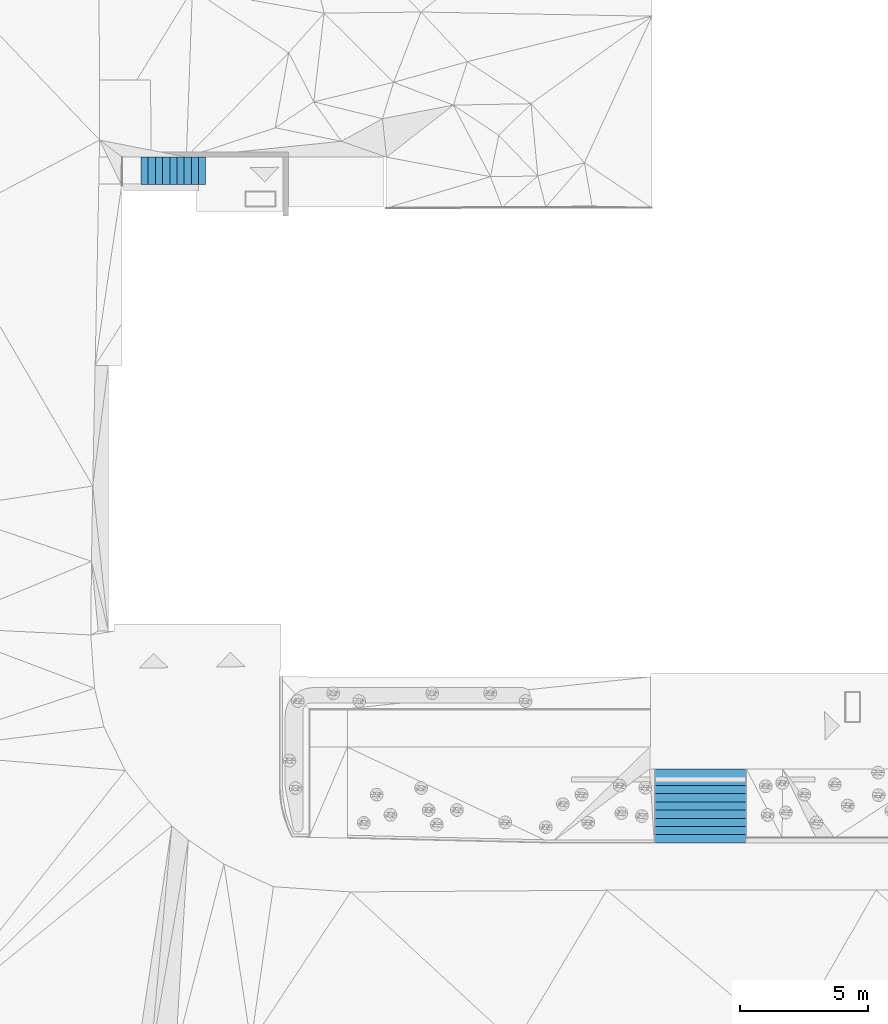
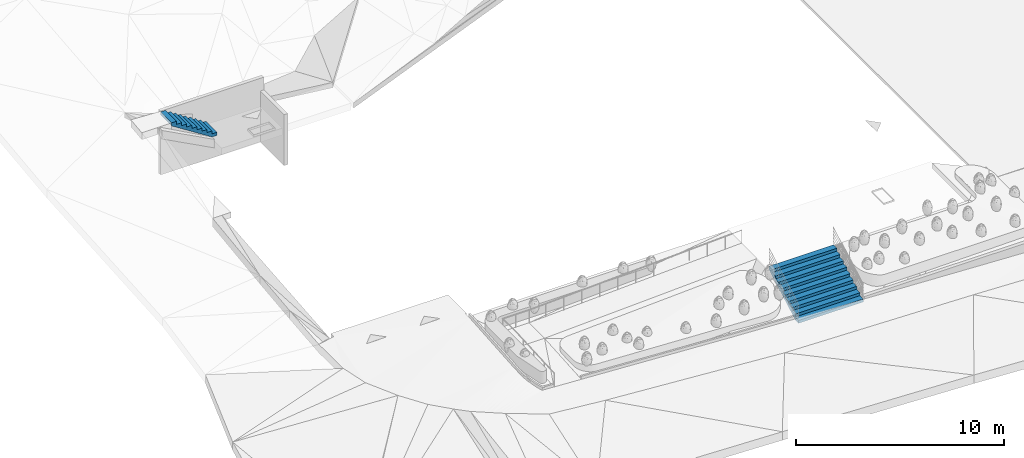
# One storey, part 16 of 23: 2 stair flights, 2 elements without a shape of their own.
"""IFC2X3 building model written with IfcOpenShell, lengths in metres."""

from ifc_helpers import new_model, entity, si_unit, converted_unit, direction, frame, origin, place, context, subcontext, project, spatial, faceted_brep, material, material_list, type_object, element, aggregate, save


model = new_model("IFC2X3")

# Units and contexts
model_context = context("Model", 3, precision=1e-05, world=origin(), true_north=direction((0.7716245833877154, 0.6360782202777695)))
body_context = subcontext(model_context, "Body", "Model", "MODEL_VIEW")
ifc_project = project(units=[si_unit("LENGTHUNIT", "METRE"), converted_unit("PLANEANGLEUNIT", "DEGREE", entity("IfcPlaneAngleMeasure", 0.017453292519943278), si_unit("PLANEANGLEUNIT", "RADIAN"), dimensions=[0, 0, 0, 0, 0, 0, 0]), si_unit("AREAUNIT", "SQUARE_METRE")], contexts=[model_context])

# Site, building, storey
site_placement = place(None, origin())
site = spatial("IfcSite", under=ifc_project, at=site_placement, Name="Default", CompositionType="ELEMENT")
building_placement = place(site_placement, origin())
building = spatial("IfcBuilding", under=site, at=building_placement, Name="<Building Name>", CompositionType="ELEMENT")
storey_placement = place(building_placement, origin())
storey = spatial("IfcBuildingStorey", under=building, at=storey_placement, Name="00 - HAV", CompositionType="ELEMENT", Elevation=0.0)

# Stair, stair flight
type_product_1 = type_object("IfcTypeProduct", Name="Cast-In-Place Stair:Utetrapp - betong")
stair_1_placement = place(storey_placement, origin())
stair_1 = element("IfcStair", 1, at=stair_1_placement, inside=storey, type_object=type_product_1, Name="Cast-In-Place Stair:Stair", ObjectType="Cast-In-Place Stair:Utetrapp - betong", ShapeType="STRAIGHT_RUN_STAIR")
ifc_material_1 = material(Name="A_Finish_Metal_Steel_Brushed")
ifc_material_2 = material(Name="Focus - Betong")
ifc_material_list = material_list([ifc_material_1, ifc_material_2])
stair_flight_type_1 = type_object("IfcStairFlightType", Name="Monolithic Run:Monolittisk", PredefinedType="STRAIGHT")
stair_flight_1_placement = place(stair_1_placement, frame((244.4031523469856, 46.70527971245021, 0.0)))
stair_flight_1 = element("IfcStairFlight", 2, at=stair_flight_1_placement, type_object=stair_flight_type_1, material=ifc_material_list, Name="Cast-In-Place Stair:Stair:1703353 Run 1", ObjectType="Monolithic Run:Monolittisk", NumberOfRiser=10, NumberOfTreads=9, RiserHeight=0.5882352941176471, TreadLength=1.0498687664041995, context=body_context, shape_type="Brep", body=[
    faceted_brep([(3.6000000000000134, 0.02100000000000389, 31.66991911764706), (3.6000000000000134, 0.020999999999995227, 31.670919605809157), (3.6000000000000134, 0.0, 31.67026335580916), (3.6000000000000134, 0.0, 31.665294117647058), (3.6000000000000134, 0.0009999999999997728, 31.665294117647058), (3.6000000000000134, 0.0009999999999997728, 31.66929411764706), (0.0, 0.02100000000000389, 31.66991911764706), (0.0, 0.0009999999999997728, 31.66929411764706), (0.0, 0.0009999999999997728, 31.665294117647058), (0.0, 0.0, 31.66529411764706), (0.0, 0.0, 31.67026335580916), (0.0, 0.02100000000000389, 31.670919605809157)], [[[0, 1, 2, 3, 4, 5]], [[6, 7, 8, 9, 10, 11]], [[1, 0, 6, 11]], [[2, 1, 11, 10]], [[3, 2, 10, 9]], [[4, 3, 9, 8]], [[5, 4, 8, 7]], [[0, 5, 7, 6]]]),
    faceted_brep([(3.6000000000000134, 0.32099999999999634, 31.66929411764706), (3.6000000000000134, 0.32099999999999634, 31.67929411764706), (3.6000000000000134, 0.0009999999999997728, 31.66929411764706), (0.0, 0.32099999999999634, 31.66929411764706), (0.0, 0.0009999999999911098, 31.669294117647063), (0.0, 0.32099999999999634, 31.67929411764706)], [[[0, 1, 2]], [[3, 4, 5]], [[1, 0, 3, 5]], [[2, 1, 5, 4]], [[0, 2, 4, 3]]]),
    faceted_brep([(3.6000000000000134, 0.34100000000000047, 31.849213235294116), (3.6000000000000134, 0.3409999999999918, 31.850213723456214), (3.6000000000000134, 0.31999999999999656, 31.849557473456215), (3.6000000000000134, 0.31999999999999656, 31.844588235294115), (3.6000000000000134, 0.32099999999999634, 31.844588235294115), (3.6000000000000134, 0.32099999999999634, 31.848588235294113), (0.0, 0.34100000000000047, 31.849213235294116), (0.0, 0.32099999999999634, 31.848588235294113), (0.0, 0.32099999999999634, 31.844588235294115), (0.0, 0.31999999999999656, 31.84458823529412), (0.0, 0.31999999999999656, 31.849557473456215), (0.0, 0.34100000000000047, 31.850213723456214)], [[[0, 1, 2, 3, 4, 5]], [[6, 7, 8, 9, 10, 11]], [[1, 0, 6, 11]], [[2, 1, 11, 10]], [[3, 2, 10, 9]], [[4, 3, 9, 8]], [[5, 4, 8, 7]], [[0, 5, 7, 6]]]),
    faceted_brep([(3.6000000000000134, 0.6409999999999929, 31.848588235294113), (3.6000000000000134, 0.6409999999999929, 31.858588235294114), (3.6000000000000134, 0.32099999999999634, 31.848588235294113), (0.0, 0.6409999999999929, 31.848588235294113), (0.0, 0.3209999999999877, 31.84858823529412), (0.0, 0.6409999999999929, 31.858588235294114)], [[[0, 1, 2]], [[3, 4, 5]], [[1, 0, 3, 5]], [[2, 1, 5, 4]], [[0, 2, 4, 3]]]),
    faceted_brep([(3.6000000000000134, 0.660999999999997, 32.028507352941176), (3.6000000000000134, 0.6609999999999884, 32.029507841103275), (3.6000000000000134, 0.6399999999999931, 32.028851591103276), (3.6000000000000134, 0.6399999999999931, 32.02388235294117), (3.6000000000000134, 0.6409999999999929, 32.02388235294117), (3.6000000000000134, 0.6409999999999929, 32.02788235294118), (0.0, 0.660999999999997, 32.028507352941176), (0.0, 0.6409999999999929, 32.02788235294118), (0.0, 0.6409999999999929, 32.02388235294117), (0.0, 0.6399999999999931, 32.02388235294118), (0.0, 0.6399999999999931, 32.028851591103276), (0.0, 0.660999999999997, 32.029507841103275)], [[[0, 1, 2, 3, 4, 5]], [[6, 7, 8, 9, 10, 11]], [[1, 0, 6, 11]], [[2, 1, 11, 10]], [[3, 2, 10, 9]], [[4, 3, 9, 8]], [[5, 4, 8, 7]], [[0, 5, 7, 6]]]),
    faceted_brep([(3.6000000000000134, 0.9609999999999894, 32.02788235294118), (3.6000000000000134, 0.9609999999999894, 32.037882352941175), (3.6000000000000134, 0.6409999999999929, 32.02788235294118), (0.0, 0.9609999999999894, 32.02788235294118), (0.0, 0.6409999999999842, 32.02788235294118), (0.0, 0.9609999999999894, 32.037882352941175)], [[[0, 1, 2]], [[3, 4, 5]], [[1, 0, 3, 5]], [[2, 1, 5, 4]], [[0, 2, 4, 3]]]),
    faceted_brep([(3.6000000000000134, 0.9810000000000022, 32.20780147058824), (3.6000000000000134, 0.9809999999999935, 32.208801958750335), (3.6000000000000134, 0.9599999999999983, 32.20814570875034), (3.6000000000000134, 0.9599999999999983, 32.20317647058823), (3.6000000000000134, 0.9609999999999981, 32.20317647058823), (3.6000000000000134, 0.9609999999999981, 32.20717647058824), (0.0, 0.9810000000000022, 32.20780147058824), (0.0, 0.9609999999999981, 32.20717647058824), (0.0, 0.9609999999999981, 32.20317647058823), (0.0, 0.9599999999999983, 32.20317647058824), (0.0, 0.9599999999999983, 32.20814570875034), (0.0, 0.9810000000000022, 32.208801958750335)], [[[0, 1, 2, 3, 4, 5]], [[6, 7, 8, 9, 10, 11]], [[1, 0, 6, 11]], [[2, 1, 11, 10]], [[3, 2, 10, 9]], [[4, 3, 9, 8]], [[5, 4, 8, 7]], [[0, 5, 7, 6]]]),
    faceted_brep([(3.6000000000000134, 1.2809999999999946, 32.20717647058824), (3.6000000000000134, 1.2809999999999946, 32.217176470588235), (3.6000000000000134, 0.9609999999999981, 32.20717647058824), (0.0, 1.2809999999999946, 32.20717647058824), (0.0, 0.9609999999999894, 32.20717647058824), (0.0, 1.2809999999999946, 32.217176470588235)], [[[0, 1, 2]], [[3, 4, 5]], [[1, 0, 3, 5]], [[2, 1, 5, 4]], [[0, 2, 4, 3]]]),
    faceted_brep([(3.6000000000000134, 1.3009999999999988, 32.38709558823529), (3.6000000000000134, 1.3009999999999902, 32.38809607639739), (3.6000000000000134, 1.279999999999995, 32.38743982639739), (3.6000000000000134, 1.279999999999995, 32.38247058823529), (3.6000000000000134, 1.2809999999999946, 32.38247058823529), (3.6000000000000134, 1.2809999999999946, 32.38647058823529), (0.0, 1.3009999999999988, 32.38709558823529), (0.0, 1.2809999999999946, 32.38647058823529), (0.0, 1.2809999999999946, 32.38247058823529), (0.0, 1.279999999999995, 32.38247058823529), (0.0, 1.279999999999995, 32.38743982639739), (0.0, 1.3009999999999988, 32.38809607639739)], [[[0, 1, 2, 3, 4, 5]], [[6, 7, 8, 9, 10, 11]], [[1, 0, 6, 11]], [[2, 1, 11, 10]], [[3, 2, 10, 9]], [[4, 3, 9, 8]], [[5, 4, 8, 7]], [[0, 5, 7, 6]]]),
    faceted_brep([(3.6000000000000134, 1.6009999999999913, 32.38647058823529), (3.6000000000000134, 1.6009999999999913, 32.396470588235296), (3.6000000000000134, 1.2809999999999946, 32.38647058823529), (0.0, 1.6009999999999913, 32.38647058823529), (0.0, 1.280999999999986, 32.3864705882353), (0.0, 1.6009999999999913, 32.396470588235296)], [[[0, 1, 2]], [[3, 4, 5]], [[1, 0, 3, 5]], [[2, 1, 5, 4]], [[0, 2, 4, 3]]]),
    faceted_brep([(3.6000000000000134, 1.6209999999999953, 32.56638970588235), (3.6000000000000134, 1.6209999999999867, 32.56739019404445), (3.6000000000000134, 1.5999999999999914, 32.56673394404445), (3.6000000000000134, 1.5999999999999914, 32.561764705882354), (3.6000000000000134, 1.6009999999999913, 32.561764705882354), (3.6000000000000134, 1.6009999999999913, 32.56576470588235), (0.0, 1.6209999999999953, 32.56638970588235), (0.0, 1.6009999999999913, 32.56576470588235), (0.0, 1.6009999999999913, 32.561764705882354), (0.0, 1.5999999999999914, 32.561764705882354), (0.0, 1.5999999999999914, 32.56673394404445), (0.0, 1.6209999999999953, 32.56739019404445)], [[[0, 1, 2, 3, 4, 5]], [[6, 7, 8, 9, 10, 11]], [[1, 0, 6, 11]], [[2, 1, 11, 10]], [[3, 2, 10, 9]], [[4, 3, 9, 8]], [[5, 4, 8, 7]], [[0, 5, 7, 6]]]),
    faceted_brep([(3.6000000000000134, 1.9209999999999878, 32.56576470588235), (3.6000000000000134, 1.9209999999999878, 32.57576470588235), (3.6000000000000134, 1.6009999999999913, 32.56576470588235), (0.0, 1.9209999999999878, 32.56576470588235), (0.0, 1.6009999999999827, 32.56576470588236), (0.0, 1.9209999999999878, 32.57576470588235)], [[[0, 1, 2]], [[3, 4, 5]], [[1, 0, 3, 5]], [[2, 1, 5, 4]], [[0, 2, 4, 3]]]),
    faceted_brep([(3.6000000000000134, 1.9410000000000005, 32.74568382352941), (3.6000000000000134, 1.9409999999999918, 32.74668431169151), (3.6000000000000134, 1.9199999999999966, 32.74602806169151), (3.6000000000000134, 1.9199999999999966, 32.741058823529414), (3.6000000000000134, 1.9209999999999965, 32.741058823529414), (3.6000000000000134, 1.9209999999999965, 32.74505882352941), (0.0, 1.9410000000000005, 32.74568382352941), (0.0, 1.9209999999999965, 32.74505882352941), (0.0, 1.9209999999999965, 32.741058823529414), (0.0, 1.9199999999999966, 32.741058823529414), (0.0, 1.9199999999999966, 32.74602806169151), (0.0, 1.9410000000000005, 32.74668431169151)], [[[0, 1, 2, 3, 4, 5]], [[6, 7, 8, 9, 10, 11]], [[1, 0, 6, 11]], [[2, 1, 11, 10]], [[3, 2, 10, 9]], [[4, 3, 9, 8]], [[5, 4, 8, 7]], [[0, 5, 7, 6]]]),
    faceted_brep([(3.6000000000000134, 2.240999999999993, 32.74505882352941), (3.6000000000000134, 2.240999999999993, 32.75505882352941), (3.6000000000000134, 1.9209999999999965, 32.74505882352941), (0.0, 2.240999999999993, 32.74505882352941), (0.0, 1.9209999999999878, 32.74505882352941), (0.0, 2.240999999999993, 32.75505882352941)], [[[0, 1, 2]], [[3, 4, 5]], [[1, 0, 3, 5]], [[2, 1, 5, 4]], [[0, 2, 4, 3]]]),
    faceted_brep([(3.6000000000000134, 2.260999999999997, 32.92497794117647), (3.6000000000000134, 2.2609999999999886, 32.925978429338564), (3.6000000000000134, 2.239999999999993, 32.92532217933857), (3.6000000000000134, 2.239999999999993, 32.92035294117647), (3.6000000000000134, 2.240999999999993, 32.92035294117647), (3.6000000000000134, 2.240999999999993, 32.924352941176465), (0.0, 2.260999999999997, 32.92497794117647), (0.0, 2.240999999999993, 32.924352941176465), (0.0, 2.240999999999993, 32.92035294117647), (0.0, 2.239999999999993, 32.920352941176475), (0.0, 2.239999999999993, 32.92532217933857), (0.0, 2.260999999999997, 32.925978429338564)], [[[0, 1, 2, 3, 4, 5]], [[6, 7, 8, 9, 10, 11]], [[1, 0, 6, 11]], [[2, 1, 11, 10]], [[3, 2, 10, 9]], [[4, 3, 9, 8]], [[5, 4, 8, 7]], [[0, 5, 7, 6]]]),
    faceted_brep([(3.6000000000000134, 2.5609999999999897, 32.924352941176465), (3.6000000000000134, 2.5609999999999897, 32.93435294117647), (3.6000000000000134, 2.240999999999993, 32.924352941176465), (0.0, 2.5609999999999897, 32.924352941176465), (0.0, 2.2409999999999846, 32.92435294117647), (0.0, 2.5609999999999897, 32.93435294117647)], [[[0, 1, 2]], [[3, 4, 5]], [[1, 0, 3, 5]], [[2, 1, 5, 4]], [[0, 2, 4, 3]]]),
    faceted_brep([(3.6000000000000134, 2.581000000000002, 33.10427205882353), (3.6000000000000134, 2.5809999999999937, 33.105272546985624), (3.6000000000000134, 2.5599999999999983, 33.10461629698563), (3.6000000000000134, 2.5599999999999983, 33.09964705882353), (3.6000000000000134, 2.560999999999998, 33.09964705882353), (3.6000000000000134, 2.560999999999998, 33.103647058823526), (0.0, 2.581000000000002, 33.10427205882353), (0.0, 2.560999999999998, 33.103647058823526), (0.0, 2.560999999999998, 33.09964705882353), (0.0, 2.5599999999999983, 33.099647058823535), (0.0, 2.5599999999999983, 33.10461629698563), (0.0, 2.581000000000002, 33.105272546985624)], [[[0, 1, 2, 3, 4, 5]], [[6, 7, 8, 9, 10, 11]], [[1, 0, 6, 11]], [[2, 1, 11, 10]], [[3, 2, 10, 9]], [[4, 3, 9, 8]], [[5, 4, 8, 7]], [[0, 5, 7, 6]]]),
    faceted_brep([(3.6000000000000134, 2.880999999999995, 33.103647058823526), (3.6000000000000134, 2.880999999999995, 33.11364705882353), (3.6000000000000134, 2.560999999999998, 33.103647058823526), (0.0, 2.880999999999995, 33.103647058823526), (0.0, 2.5609999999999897, 33.10364705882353), (0.0, 2.880999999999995, 33.11364705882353)], [[[0, 1, 2]], [[3, 4, 5]], [[1, 0, 3, 5]], [[2, 1, 5, 4]], [[0, 2, 4, 3]]]),
    faceted_brep([(0.0, 0.32099999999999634, 31.66929411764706), (0.0, 0.0009999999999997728, 31.66929411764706), (3.6000000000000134, 0.0009999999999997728, 31.66929411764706), (3.6000000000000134, 0.321000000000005, 31.66929411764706), (0.0, 0.32099999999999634, 31.5), (0.0, 0.0009999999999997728, 31.5), (3.6000000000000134, 0.0009999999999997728, 31.5), (3.6000000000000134, 0.32099999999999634, 31.5), (0.0, 0.6410000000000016, 31.848588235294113), (0.0, 0.321000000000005, 31.848588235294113), (3.6000000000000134, 0.321000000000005, 31.848588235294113), (3.6000000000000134, 0.6410000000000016, 31.848588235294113), (0.0, 0.6410000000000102, 31.676648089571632), (0.0, 0.32572256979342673, 31.5), (3.6000000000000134, 0.3257225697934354, 31.500000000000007), (3.6000000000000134, 0.6410000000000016, 31.676648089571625), (0.0, 0.9609999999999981, 32.02788235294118), (0.0, 0.6410000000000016, 32.02788235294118), (3.6000000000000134, 0.6410000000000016, 32.02788235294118), (3.6000000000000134, 0.9610000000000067, 32.02788235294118), (0.0, 0.9610000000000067, 31.85594220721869), (3.6000000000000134, 0.9609999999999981, 31.855942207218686), (0.0, 1.2810000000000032, 32.20717647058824), (0.0, 0.9610000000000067, 32.20717647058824), (3.6000000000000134, 0.9610000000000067, 32.20717647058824), (3.6000000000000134, 1.2810000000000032, 32.20717647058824), (0.0, 1.281000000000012, 32.03523632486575), (3.6000000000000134, 1.2810000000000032, 32.03523632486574), (0.0, 1.601, 32.38647058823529), (0.0, 1.2810000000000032, 32.38647058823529), (3.6000000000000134, 1.2810000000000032, 32.38647058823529), (3.6000000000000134, 1.601, 32.38647058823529), (0.0, 1.6010000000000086, 32.2145304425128), (3.6000000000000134, 1.601, 32.2145304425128), (0.0, 1.9209999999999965, 32.56576470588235), (0.0, 1.601, 32.56576470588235), (3.6000000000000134, 1.601, 32.56576470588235), (3.6000000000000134, 1.9210000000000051, 32.56576470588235), (0.0, 1.9210000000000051, 32.393824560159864), (3.6000000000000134, 1.9209999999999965, 32.39382456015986), (0.0, 2.241000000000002, 32.74505882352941), (0.0, 1.9210000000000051, 32.74505882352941), (3.6000000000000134, 1.9210000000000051, 32.74505882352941), (3.6000000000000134, 2.241000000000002, 32.74505882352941), (0.0, 2.2410000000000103, 32.573118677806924), (3.6000000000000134, 2.241000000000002, 32.57311867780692), (0.0, 2.560999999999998, 32.924352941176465), (0.0, 2.241000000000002, 32.924352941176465), (3.6000000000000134, 2.241000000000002, 32.924352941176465), (3.6000000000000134, 2.561000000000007, 32.924352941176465), (0.0, 2.561000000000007, 32.752412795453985), (3.6000000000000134, 2.560999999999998, 32.75241279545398), (0.0, 2.8810000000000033, 33.103647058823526), (0.0, 2.561000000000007, 33.103647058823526), (3.6000000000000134, 2.561000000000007, 33.103647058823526), (3.6000000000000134, 2.8810000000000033, 33.103647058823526), (0.0, 2.881000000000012, 32.931706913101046), (3.6000000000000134, 2.8810000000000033, 32.93170691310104)], [[[0, 1, 2, 3]], [[1, 0, 4, 5]], [[2, 1, 5, 6]], [[3, 2, 6, 7]], [[8, 9, 10, 11]], [[4, 0, 9, 8, 12, 13]], [[0, 3, 10, 9]], [[3, 7, 14, 15, 11, 10]], [[16, 17, 18, 19]], [[17, 16, 20, 12, 8]], [[8, 11, 18, 17]], [[19, 18, 11, 15, 21]], [[22, 23, 24, 25]], [[23, 22, 26, 20, 16]], [[16, 19, 24, 23]], [[25, 24, 19, 21, 27]], [[28, 29, 30, 31]], [[29, 28, 32, 26, 22]], [[22, 25, 30, 29]], [[31, 30, 25, 27, 33]], [[34, 35, 36, 37]], [[35, 34, 38, 32, 28]], [[28, 31, 36, 35]], [[37, 36, 31, 33, 39]], [[40, 41, 42, 43]], [[41, 40, 44, 38, 34]], [[34, 37, 42, 41]], [[43, 42, 37, 39, 45]], [[46, 47, 48, 49]], [[47, 46, 50, 44, 40]], [[40, 43, 48, 47]], [[49, 48, 43, 45, 51]], [[52, 53, 54, 55]], [[53, 52, 56, 50, 46]], [[46, 49, 54, 53]], [[55, 54, 49, 51, 57]], [[52, 55, 57, 56]], [[5, 4, 13, 14, 7, 6]], [[14, 13, 12, 20, 26, 32, 38, 44, 50, 56, 57, 51, 45, 39, 33, 27, 21, 15]]]),
])
aggregate(stair_1, [stair_flight_1])

type_product_2 = type_object("IfcTypeProduct", Name="Cast-In-Place Stair:Cast-In-Place Stair")
stair_2_placement = place(storey_placement, origin())
stair_2 = element("IfcStair", 3, at=stair_2_placement, inside=storey, type_object=type_product_2, Name="Cast-In-Place Stair:Stair", ObjectType="Cast-In-Place Stair:Cast-In-Place Stair", ShapeType="STRAIGHT_RUN_STAIR")
ifc_material_3 = material(Name="A_Default_Building_Part")
stair_flight_type_2 = type_object("IfcStairFlightType", Name="Monolithic Run:Monolithic Run", PredefinedType="STRAIGHT")
stair_flight_2_placement = place(stair_2_placement, frame((224.36315234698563, 72.41519263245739, 0.0)))
stair_flight_2 = element("IfcStairFlight", 4, at=stair_flight_2_placement, type_object=stair_flight_type_2, material=ifc_material_3, Name="Cast-In-Place Stair:Stair:1729662 Run 1", ObjectType="Monolithic Run:Monolithic Run", NumberOfRiser=10, NumberOfTreads=9, RiserHeight=0.5882352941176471, TreadLength=0.9186351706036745, context=body_context, shape_type="Brep", body=[
    faceted_brep([(2.2400000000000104, 0.0, 33.27929411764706), (2.520000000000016, 0.0, 33.27929411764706), (2.520000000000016, 1.0670000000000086, 33.27929411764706), (2.2400000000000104, 1.0670000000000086, 33.27929411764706), (2.240000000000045, 0.0, 33.10117706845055), (2.241838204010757, 0.0, 33.1), (2.520000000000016, 0.0, 33.1), (2.520000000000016, 1.0670000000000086, 33.1), (2.241838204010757, 1.0670000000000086, 33.09999999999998), (2.2400000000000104, 1.0670000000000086, 33.101177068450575), (1.9600000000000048, 0.0, 33.458588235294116), (2.2400000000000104, 0.0, 33.458588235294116), (2.2400000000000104, 1.0670000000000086, 33.458588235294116), (1.9600000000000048, 1.0670000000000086, 33.458588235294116), (1.9600000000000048, 0.0, 33.28047118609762), (1.9600000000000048, 1.0670000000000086, 33.280471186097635), (1.6799999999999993, 0.0, 33.637882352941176), (1.9600000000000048, 0.0, 33.637882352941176), (1.9600000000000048, 1.0670000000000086, 33.637882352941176), (1.680000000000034, 1.0670000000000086, 33.637882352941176), (1.6799999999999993, 0.0, 33.4597653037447), (1.6799999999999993, 1.0670000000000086, 33.4597653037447), (1.4000000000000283, 0.0, 33.81717647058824), (1.680000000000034, 0.0, 33.81717647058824), (1.680000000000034, 1.0670000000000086, 33.81717647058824), (1.4000000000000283, 1.0670000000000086, 33.81717647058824), (1.4000000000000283, 0.0, 33.63905942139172), (1.4000000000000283, 1.0670000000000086, 33.63905942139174), (1.1200000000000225, 0.0, 33.99647058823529), (1.4000000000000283, 0.0, 33.99647058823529), (1.4000000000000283, 1.0670000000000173, 33.99647058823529), (1.1200000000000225, 1.0670000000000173, 33.99647058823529), (1.1200000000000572, 0.0, 33.818353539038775), (1.1200000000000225, 1.0670000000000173, 33.8183535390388), (0.840000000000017, 0.0, 34.17576470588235), (1.1200000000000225, 0.0, 34.17576470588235), (1.1200000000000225, 1.0670000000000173, 34.17576470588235), (0.840000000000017, 1.0670000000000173, 34.17576470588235), (0.8400000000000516, 0.0, 33.99764765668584), (0.840000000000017, 1.0670000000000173, 33.997647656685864), (0.5600000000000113, 0.0, 34.35505882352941), (0.840000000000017, 0.0, 34.35505882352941), (0.840000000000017, 1.0670000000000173, 34.35505882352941), (0.5600000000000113, 1.0670000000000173, 34.35505882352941), (0.5600000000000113, 0.0, 34.17694177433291), (0.5600000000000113, 1.0670000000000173, 34.176941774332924), (0.28000000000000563, 0.0, 34.53435294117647), (0.5600000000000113, 0.0, 34.53435294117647), (0.5600000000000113, 1.0670000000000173, 34.53435294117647), (0.28000000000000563, 1.0670000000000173, 34.53435294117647), (0.28000000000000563, 0.0, 34.35623589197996), (0.28000000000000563, 1.0670000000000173, 34.356235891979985), (0.0, 0.0, 34.71364705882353), (0.28000000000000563, 0.0, 34.71364705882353), (0.28000000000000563, 1.0670000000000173, 34.71364705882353), (0.0, 1.0670000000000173, 34.71364705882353), (0.0, 0.0, 34.53553000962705), (0.0, 1.0670000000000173, 34.535530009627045)], [[[0, 1, 2, 3]], [[1, 0, 4, 5, 6]], [[2, 1, 6, 7]], [[3, 2, 7, 8, 9]], [[10, 11, 12, 13]], [[11, 10, 14, 4, 0]], [[0, 3, 12, 11]], [[13, 12, 3, 9, 15]], [[16, 17, 18, 19]], [[17, 16, 20, 14, 10]], [[10, 13, 18, 17]], [[19, 18, 13, 15, 21]], [[22, 23, 24, 25]], [[23, 22, 26, 20, 16]], [[16, 19, 24, 23]], [[25, 24, 19, 21, 27]], [[28, 29, 30, 31]], [[29, 28, 32, 26, 22]], [[22, 25, 30, 29]], [[31, 30, 25, 27, 33]], [[34, 35, 36, 37]], [[35, 34, 38, 32, 28]], [[28, 31, 36, 35]], [[37, 36, 31, 33, 39]], [[40, 41, 42, 43]], [[41, 40, 44, 38, 34]], [[34, 37, 42, 41]], [[43, 42, 37, 39, 45]], [[46, 47, 48, 49]], [[47, 46, 50, 44, 40]], [[40, 43, 48, 47]], [[49, 48, 43, 45, 51]], [[52, 53, 54, 55]], [[53, 52, 56, 50, 46]], [[46, 49, 54, 53]], [[55, 54, 49, 51, 57]], [[52, 55, 57, 56]], [[7, 6, 5, 8]], [[8, 5, 4, 14, 20, 26, 32, 38, 44, 50, 56, 57, 51, 45, 39, 33, 27, 21, 15, 9]]]),
])
aggregate(stair_2, [stair_flight_2])

save(model, "model.ifc")
